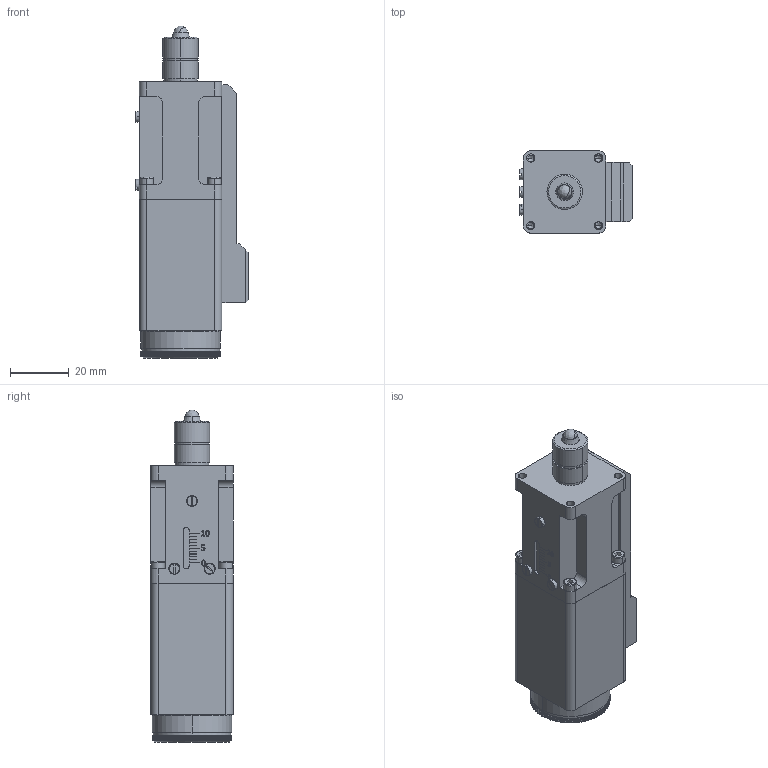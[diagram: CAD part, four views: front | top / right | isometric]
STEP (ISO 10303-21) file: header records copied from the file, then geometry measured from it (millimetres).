
FILE_DESCRIPTION (( 'STEP AP203' ), '1' );
FILE_NAME ('8CMA28-10.STEP', '2009-10-12T13:35:53', ( 'Darius' ), ( '' ), 'SwSTEP 2.0', 'SolidWorks 2003240', '' );
FILE_SCHEMA (( 'CONFIG_CONTROL_DESIGN' ));
Length unit declared in the file: millimetre
Products named in the file (1): 8CMA28-10
Bounding box: 38.3 x 28 x 112.67 mm (x, y, z)
Volume: 76410 mm3; surface area: 17679.6 mm2
Topology: 1 solids, 22 shells, 1402 faces, 3754 edges, 2423 vertices
Faces by surface type: plane 615, cylinder 531, bspline 180, cone 76
Entity records: 47838 total; most frequent: CARTESIAN_POINT 13756, ORIENTED_EDGE 7428, DIRECTION 6705, EDGE_CURVE 3714, VERTEX_POINT 2423, AXIS2_PLACEMENT_3D 2404, VECTOR 1897, LINE 1897
